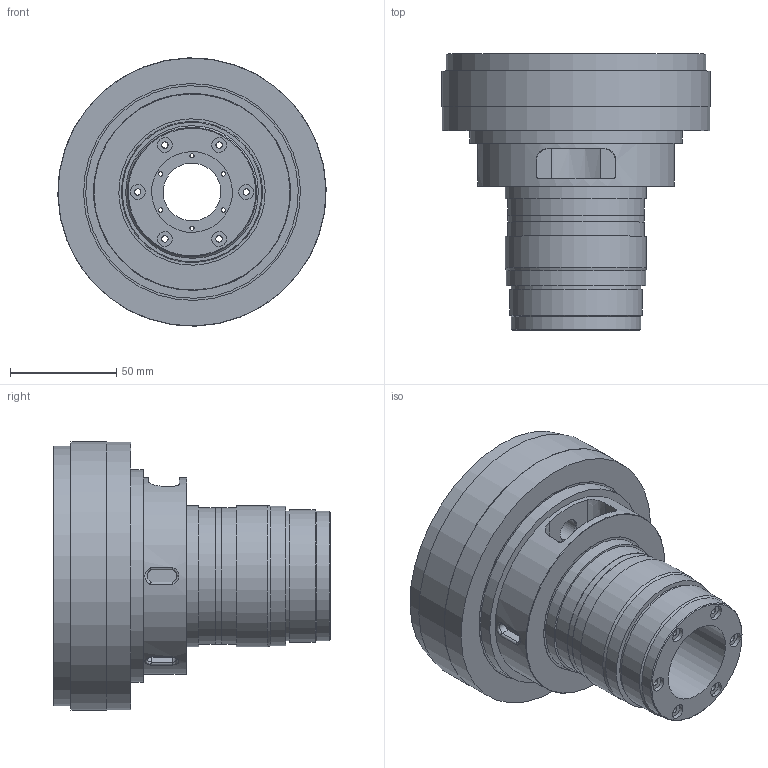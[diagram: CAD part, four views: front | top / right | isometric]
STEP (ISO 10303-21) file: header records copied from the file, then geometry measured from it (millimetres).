
FILE_DESCRIPTION( ( 'STEP Version 203' ), '1' );
FILE_NAME( 'E:/ANSYS_WB_14.0/ANSYS_WB_14.0_Manuscript - Copy/ANSYS_WB/c07/Tut03/Geom.stp', '08/30/19 11:14:14', ( 'SK-CADsoft' ), ( ' ' ), 'PSStep 21.0.47', 'DesignModeler STEP Output', ' ' );
FILE_SCHEMA( ( 'CONFIG_CONTROL_DESIGN' ) );
Length unit declared in the file: metre
Products named in the file (1): PartBody
Bounding box: 126.2 x 129.8 x 126.2 mm (x, y, z)
Volume: 642949.1 mm3; surface area: 87895.9 mm2
Topology: 1 solids, 1 shells, 133 faces, 294 edges, 189 vertices
Faces by surface type: revolution 50, plane 48, cylinder 23, bspline 8, cone 4
Full cylindrical faces by diameter (mm): 60.8 x1, 60.96 x1, 62.4 x1, 64 x1, 64.4 x2, 65.6 x1, 66.4 x2, 92.6 x1, 100 x1, 122 x1, 126 x1, 126.24 x1
Entity records: 4337 total; most frequent: CARTESIAN_POINT 1545, DIRECTION 516, ORIENTED_EDGE 460, EDGE_LOOP 248, EDGE_CURVE 230, AXIS2_PLACEMENT_3D 200, FACE_OUTER_BOUND 183, VERTEX_POINT 180
